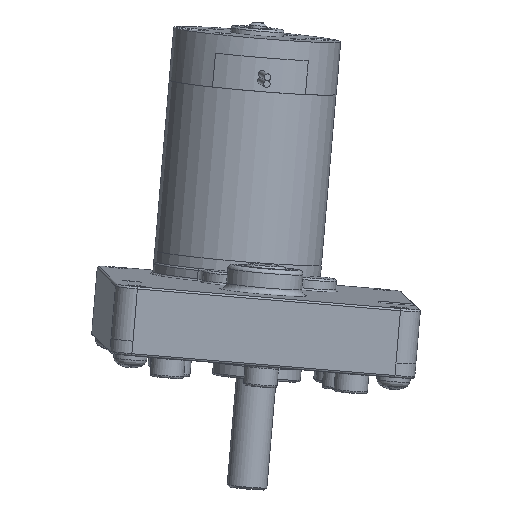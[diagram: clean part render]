
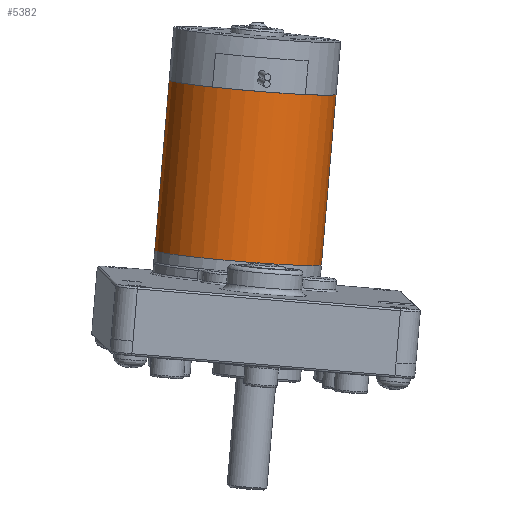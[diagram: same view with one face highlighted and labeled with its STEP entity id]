
A CAD part, front view. The second image highlights one B-rep face of the part: STEP entity #5382.
In plain terms, the highlighted cylindrical face has radius 20 mm (diameter 40 mm), a full revolution.
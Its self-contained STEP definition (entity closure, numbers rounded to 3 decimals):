
#949=FACE_BOUND('',#1868,.T.);
#1319=FACE_OUTER_BOUND('',#1867,.T.);
#1867=EDGE_LOOP('',(#4791));
#1868=EDGE_LOOP('',(#4792));
#2327=CIRCLE('',#6145,20.);
#2328=CIRCLE('',#6146,20.);
#2814=VERTEX_POINT('',#10214);
#2815=VERTEX_POINT('',#10216);
#3488=EDGE_CURVE('',#2814,#2814,#2327,.T.);
#3489=EDGE_CURVE('',#2815,#2815,#2328,.T.);
#4791=ORIENTED_EDGE('',*,*,#3488,.T.);
#4792=ORIENTED_EDGE('',*,*,#3489,.F.);
#5035=CYLINDRICAL_SURFACE('',#6144,20.);
#5382=ADVANCED_FACE('',(#1319,#949),#5035,.T.);
#6144=AXIS2_PLACEMENT_3D('',#10213,#7769,#7770);
#6145=AXIS2_PLACEMENT_3D('',#10215,#7771,#7772);
#6146=AXIS2_PLACEMENT_3D('',#10217,#7773,#7774);
#7769=DIRECTION('center_axis',(0.,0.,1.));
#7770=DIRECTION('ref_axis',(-1.,0.,0.));
#7771=DIRECTION('center_axis',(0.,0.,-1.));
#7772=DIRECTION('ref_axis',(-1.,0.,0.));
#7773=DIRECTION('center_axis',(0.,0.,-1.));
#7774=DIRECTION('ref_axis',(-1.,0.,0.));
#10213=CARTESIAN_POINT('Origin',(0.,0.,0.));
#10214=CARTESIAN_POINT('',(20.,0.,40.8));
#10215=CARTESIAN_POINT('Origin',(0.,0.,40.8));
#10216=CARTESIAN_POINT('',(20.,0.,0.));
#10217=CARTESIAN_POINT('Origin',(0.,0.,0.));
